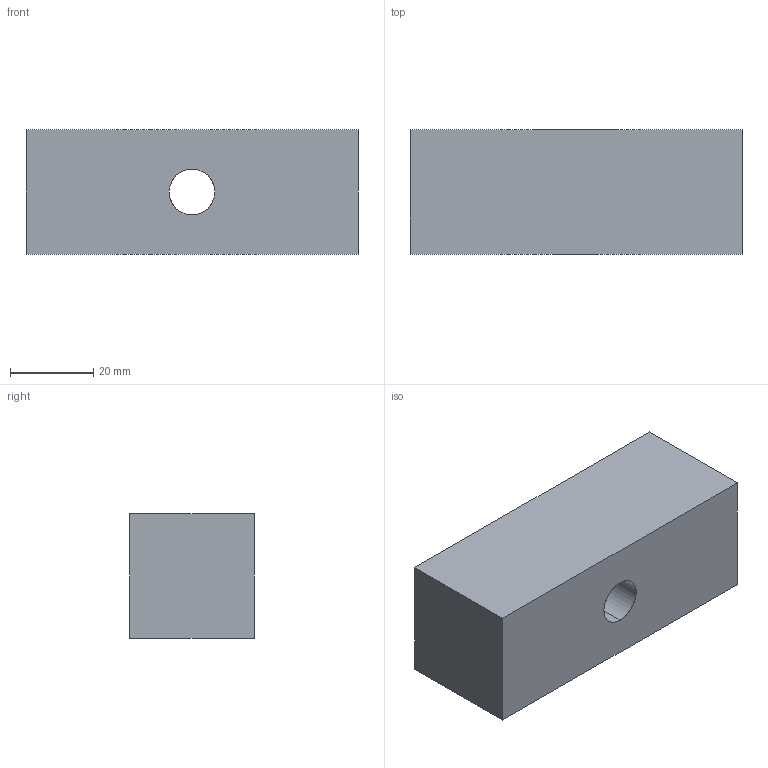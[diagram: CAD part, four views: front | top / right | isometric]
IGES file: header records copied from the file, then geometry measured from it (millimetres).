
Start section: START RECORD GO HERE.
Global section: file name: 760-3030125.igs; native system: DASSAULT SYSTEMES CATIA V5 R20 - www.3ds.com; preprocessor: CATIA Version 5 Release 20 ; author: Utente; organization: NB04-ASUS; date: 20200411.172254; units: millimetre
Bounding box: 80 x 30 x 30 mm (x, y, z)
Surface area: 12586 mm2 (no closed solid volume)
Topology: 0 solids, 0 shells, 11 faces, 48 edges, 48 vertices
Faces by surface type: extrusion 7, revolution 4
